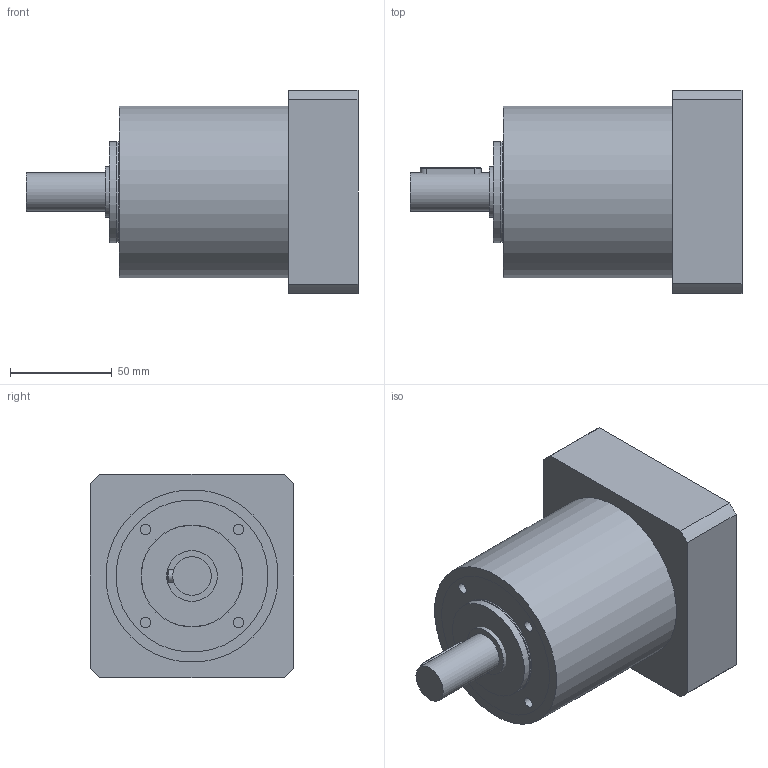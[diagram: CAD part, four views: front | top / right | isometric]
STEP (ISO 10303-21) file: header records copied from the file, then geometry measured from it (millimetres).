
FILE_DESCRIPTION(/* description */ (''),/* implementation_level */ '2;1');
FILE_NAME(/* name */ 'E00018064840MP020610083743_step203.stp',/* time_stamp */ '2010-06-02T08:42:25+02:00',/* author */ (''),/* organization */ (''),/* preprocessor_version */ 'ST-DEVELOPER v11',/* originating_system */ 'UGS - NX 5.0',/* authorisation */ '');
FILE_SCHEMA (('CONFIG_CONTROL_DESIGN'));
Length unit declared in the file: millimetre
Products named in the file (1): E00018064840MP020610083743_M
Bounding box: 163.5 x 100 x 100 mm (x, y, z)
Volume: 969724.5 mm3; surface area: 128373.2 mm2
Topology: 8 solids, 8 shells, 100 faces, 211 edges, 139 vertices
Faces by surface type: plane 44, cylinder 40, cone 13, torus 3
Full cylindrical faces by diameter (mm): 5.188 x6, 6.2 x1, 6.5 x1, 6.985 x4, 10.5 x1, 13.75 x1, 19 x2, 23 x1, 25 x2, 50 x1, 52 x1, 63.9 x1, 67.96 x1, 68 x1, 70.9 x1, 74.95 x1, 75 x2, 85 x1, 95 x1
Entity records: 2462 total; most frequent: CARTESIAN_POINT 432, DIRECTION 430, ORIENTED_EDGE 292, AXIS2_PLACEMENT_3D 186, EDGE_LOOP 164, EDGE_CURVE 146, FACE_BOUND 134, VERTEX_POINT 124
